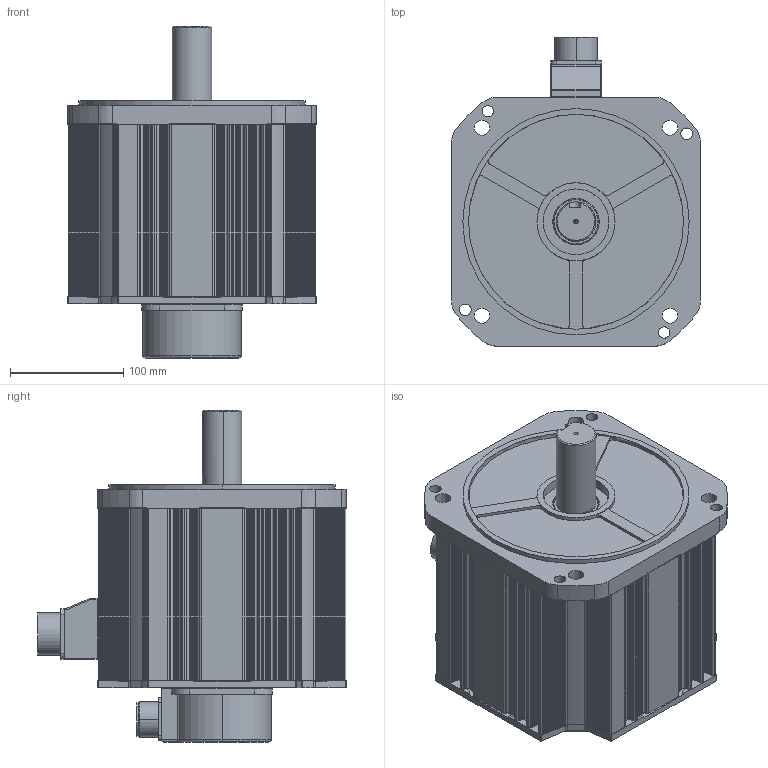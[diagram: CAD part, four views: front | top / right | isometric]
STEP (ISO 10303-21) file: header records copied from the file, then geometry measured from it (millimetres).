
FILE_DESCRIPTION (( 'STEP AP203' ), '1' );
FILE_NAME ('KANF-75G¡à9B2.STEP', '2026-09-12T00:55:01', ( '' ), ( '' ), 'SwSTEP 2.0', 'SolidWorks 2023', '' );
FILE_SCHEMA (( 'CONFIG_CONTROL_DESIGN' ));
Length unit declared in the file: millimetre
Products named in the file (11): □220 FLANGE; 10050908 CONNECTOR BOX_MS22 or MS24; 10050907 RUBBER SEAL_MS22 or MS24; □220-152.0mm; 10050532 GASKET_미돌출형; MS3102A 24-11P_표준; MS3102A 20-29P; KANF-75G□9B2; □220 BRACKET_BR; Ø35-KEY10X50; 1005053102 ENCODER COVER
Assembly tree (10 placements, depth 2):
  KANF-75G□9B2
    □220-152.0mm
    □220 FLANGE
    □220 BRACKET_BR
    10050532 GASKET_미돌출형
    1005053102 ENCODER COVER
    MS3102A 20-29P
    10050907 RUBBER SEAL_MS22 or MS24
    10050908 CONNECTOR BOX_MS22 or MS24
    MS3102A 24-11P_표준
    Ø35-KEY10X50
Bounding box: 220 x 273.12 x 293.5 mm (x, y, z)
Volume: 1934721.7 mm3; surface area: 656224.5 mm2
Topology: 10 solids, 10 shells, 1996 faces, 5710 edges, 3774 vertices
Faces by surface type: plane 1182, cylinder 720, cone 44, bspline 35, torus 13, sphere 2
Entity records: 67869 total; most frequent: CARTESIAN_POINT 13336, ORIENTED_EDGE 11368, DIRECTION 11082, EDGE_CURVE 5684, LINE 3956, VECTOR 3956, VERTEX_POINT 3774, AXIS2_PLACEMENT_3D 3563
